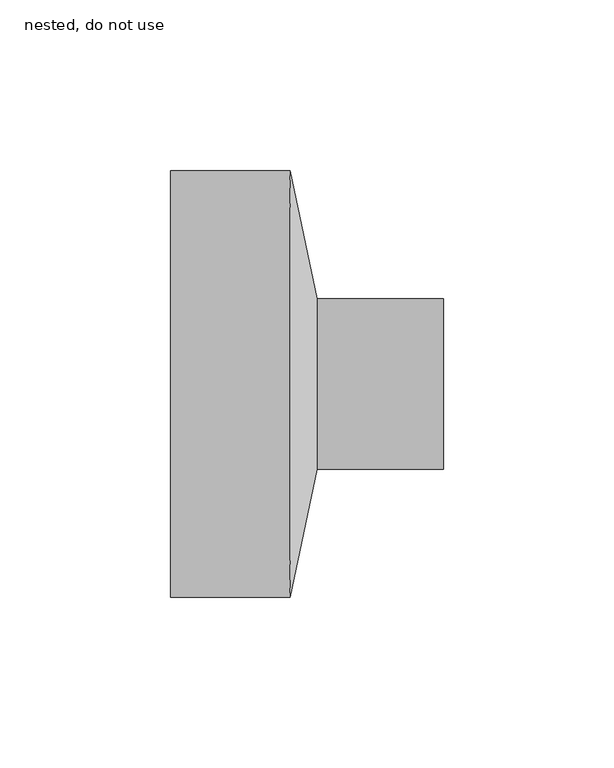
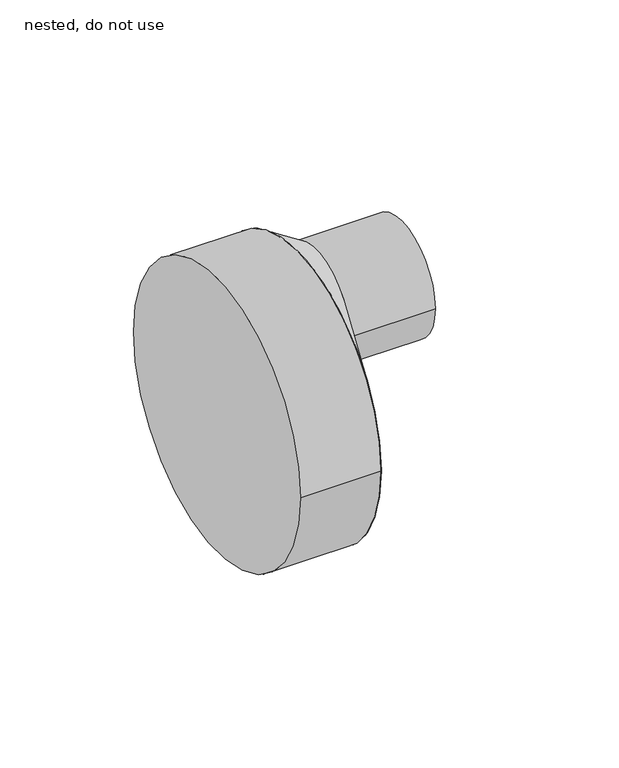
"""IFC4 building model written with IfcOpenShell, lengths in millimetres: pipe fitting geometry, NLRS_52_PIF_UN_HDPE reducer -SH_Akatherm : nested, do not use."""

from ifc_helpers import new_model, si_unit, point, frame, frame_2d, origin, origin_2d, place, context, project, spatial, circle_curve, trimmed, segment, composite_curve, outline, extrude, source, transform, mapped, element, save
from ifc_brep_helpers import plane_surface, spline_surface, advanced_brep


def nested_do_not_use_92dc5302(model_context):
    return source(origin(), model_context, "Body", "SolidModel", [
        advanced_brep(
        [(3.0, -25.0, 35.5), (3.0, 25.0, 35.5), (-5.0, -62.5, 0.0), (-5.0, 62.5, 0.0)],
        [
            (0, 1, circle_curve(frame((3.0, 0.0, 35.5), z_axis=(1.0, 0.0, 0.0), x_axis=(0.0, 1.0, 0.0)), 25.0)),
            (1, 0, circle_curve(frame((3.0, 0.0, 35.5), z_axis=(1.0, 0.0, 0.0), x_axis=(0.0, 1.0, 0.0)), 25.0)),
            (2, 3, circle_curve(frame((-5.0, 0.0, 0.0), z_axis=(-1.0, 0.0, 0.0), x_axis=(0.0, 1.0, 0.0)), 62.5)),
            (3, 2, circle_curve(frame((-5.0, 0.0, 0.0), z_axis=(-1.0, 0.0, 0.0), x_axis=(0.0, 1.0, 0.0)), 62.5)),
            (3, 1),
            (0, 2),
        ],
        [
            plane_surface(frame((3.0, 0.0, 35.5), z_axis=(1.0, 0.0, 0.0), x_axis=(0.0, 0.0, -1.0))),
            plane_surface(frame((-5.0, 0.0, 0.0), z_axis=(-1.0, 0.0, 0.0), x_axis=(0.0, 0.0, -1.0))),
            spline_surface(2, 1, [[(-5.0, -62.5, 0.0), (3.0, -25.0, 35.5)], [(-5.0, -62.5, -62.5), (3.0, -25.0, 10.5)], [(-5.0, 0.0, -62.5), (3.0, 0.0, 10.5)], [(-5.0, 62.5, -62.5), (3.0, 25.0, 10.5)], [(-5.0, 62.5, 0.0), (3.0, 25.0, 35.5)]], [3, 2, 3], [2, 2], [0.0, 1.0, 2.0], [0.0, 1.0], weights=[[1.0, 1.0], [0.7071067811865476, 0.7071067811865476], [1.0, 1.0], [0.7071067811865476, 0.7071067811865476], [1.0, 1.0]]),
            spline_surface(2, 1, [[(-5.0, 62.5, 0.0), (3.0, 25.0, 35.5)], [(-5.0, 62.5, 62.5), (3.0, 25.0, 60.5)], [(-5.0, 0.0, 62.5), (3.0, 0.0, 60.5)], [(-5.0, -62.5, 62.5), (3.0, -25.0, 60.5)], [(-5.0, -62.5, 0.0), (3.0, -25.0, 35.5)]], [3, 2, 3], [2, 2], [0.0, 1.0, 2.0], [0.0, 1.0], weights=[[1.0, 1.0], [0.7071067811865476, 0.7071067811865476], [1.0, 1.0], [0.7071067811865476, 0.7071067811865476], [1.0, 1.0]]),
        ],
        [
            (0, [[1, 2]]),
            (1, [[3, 4]]),
            (2, [[-4, 5, -1, 6]]),
            (3, [[-3, -6, -2, -5]]),
        ],
    ),
        extrude(outline(composite_curve([segment(trimmed(circle_curve(frame_2d((0.0, 35.5)), 25.0), [point((-25.0, 35.5))], [point((25.0, 35.5))], False, "CARTESIAN"), True, "CONTINUOUS"), segment(trimmed(circle_curve(frame_2d((0.0, 35.5)), 25.0), [point((25.0, 35.5))], [point((-25.0, 35.5))], False, "CARTESIAN"), True, "CONTINUOUS")], self_intersect=False)), frame((3.0, 0.0, 0.0), z_axis=(1.0, 0.0, 0.0), x_axis=(0.0, 1.0, 0.0)), (0.0, 0.0, 1.0), 37.0),
        extrude(outline(composite_curve([segment(trimmed(circle_curve(origin_2d(), 62.5), [point((-62.5, 0.0))], [point((62.5, 0.0))], False, "CARTESIAN"), True, "CONTINUOUS"), segment(trimmed(circle_curve(origin_2d(), 62.5), [point((62.5, 0.0))], [point((-62.5, 0.0))], False, "CARTESIAN"), True, "CONTINUOUS")], self_intersect=False)), frame((-40.0, 0.0, 0.0), z_axis=(1.0, 0.0, 0.0), x_axis=(0.0, 1.0, 0.0)), (0.0, 0.0, 1.0), 35.0),
    ])


if __name__ == "__main__":
    model = new_model("IFC4")
    model_context = context("Model", 3, world=origin())
    ifc_project = project(units=[si_unit("LENGTHUNIT", "METRE", prefix="MILLI")], contexts=[model_context])
    site = spatial("IfcSite", under=ifc_project)
    building = spatial("IfcBuilding", under=site)
    placement = place(None, origin())
    nested_do_not_use_shape = nested_do_not_use_92dc5302(model_context)
    element("IfcPipeFitting", 1, ObjectType="NLRS_52_PIF_UN_HDPE reducer -SH_Akatherm : nested, do not use", at=placement, inside=building, context=model_context, shape_type="MappedRepresentation", body=[
        mapped(nested_do_not_use_shape, transform((0.0, 0.0, 0.0), x_axis=(1.0, 0.0, 0.0), y_axis=(0.0, 1.0, 0.0), z_axis=(0.0, 0.0, 1.0))),
    ])
    save(model, "model.ifc")
